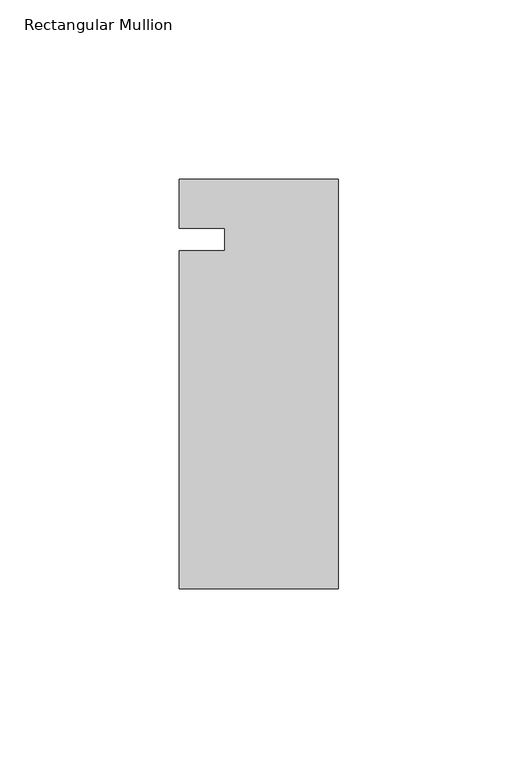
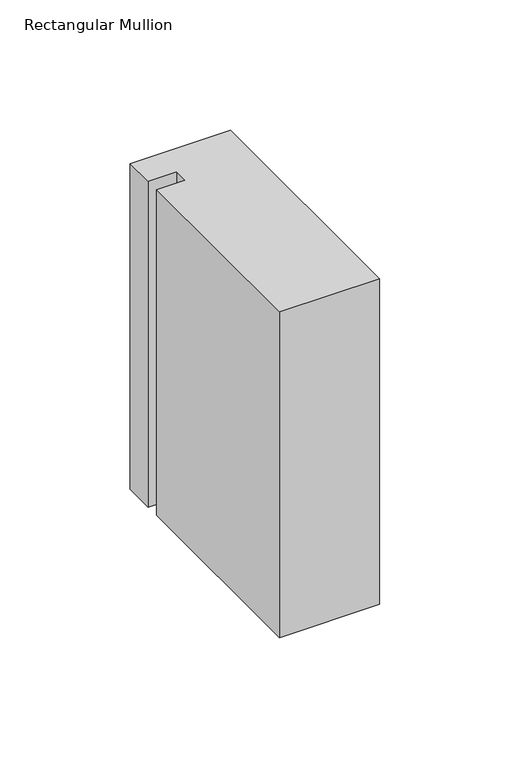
"""IFC4 building model written with IfcOpenShell, lengths in millimetres: member geometry, Rectangular Mullion : Kawneer-TRIFAB_VG_450_BACK_SB_Jamb L."""

from ifc_helpers import new_model, si_unit, frame, origin, place, context, project, spatial, polyline, outline, extrude, source, transform, mapped, element, save


def rectangular_mullion_d11c3cbe(model_context):
    return source(origin(), model_context, "Body", "SweptSolid", [
        extrude(outline(polyline([(-44.45, 16.8671875), (0.0, 16.8671875), (0.0, -97.4328125), (-44.45, -97.4328125), (-44.45, -3.1159279), (-31.7482296, -3.1159279), (-31.7482296, 3.2340721), (-44.45, 3.2340721), (-44.45, 16.8671875)])), frame((0.0, 0.0, -152.4), z_axis=(0.0, 0.0, 1.0), x_axis=(1.0, 0.0, 0.0)), (0.0, 0.0, 1.0), 152.4),
    ])


if __name__ == "__main__":
    model = new_model("IFC4")
    model_context = context("Model", 3, world=origin())
    ifc_project = project(units=[si_unit("LENGTHUNIT", "METRE", prefix="MILLI")], contexts=[model_context])
    site = spatial("IfcSite", under=ifc_project)
    building = spatial("IfcBuilding", under=site)
    placement = place(None, origin())
    rectangular_mullion_shape = rectangular_mullion_d11c3cbe(model_context)
    element("IfcMember", 1, ObjectType="Rectangular Mullion : Kawneer-TRIFAB_VG_450_BACK_SB_Jamb L", at=placement, inside=building, context=model_context, shape_type="MappedRepresentation", body=[
        mapped(rectangular_mullion_shape, transform((0.0, 0.0, 0.0), x_axis=(1.0, 0.0, 0.0), y_axis=(0.0, 1.0, 0.0), z_axis=(0.0, 0.0, 1.0))),
    ])
    save(model, "model.ifc")
